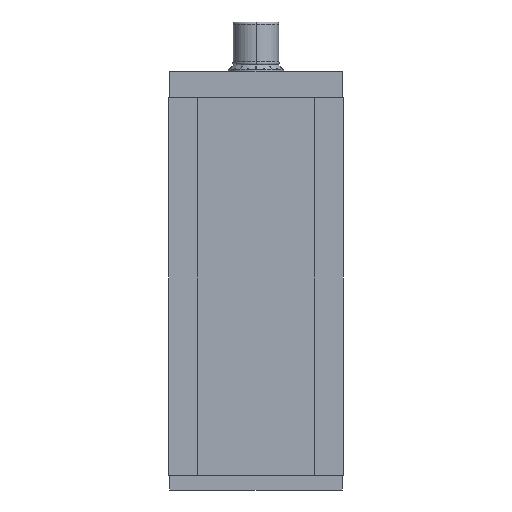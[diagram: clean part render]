
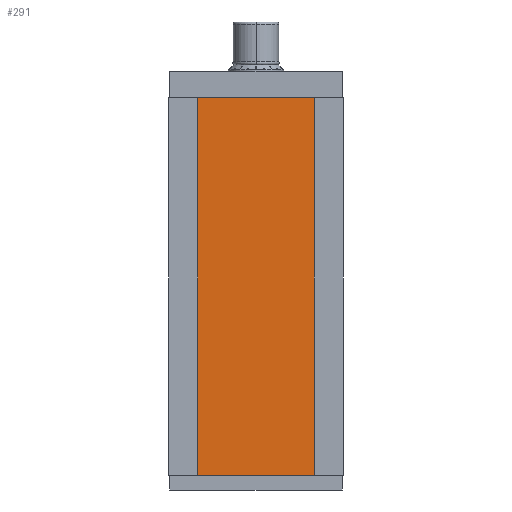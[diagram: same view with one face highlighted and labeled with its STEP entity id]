
A CAD part, front view. The second image highlights one B-rep face of the part: STEP entity #291.
In plain terms, the highlighted planar face has unit normal (0, -1, 0).
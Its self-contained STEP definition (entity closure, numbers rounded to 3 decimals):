
#91 = EDGE_CURVE ( 'NONE', #170, #110, #1534, .T. ) ;
#110 = VERTEX_POINT ( 'NONE', #1559 ) ;
#170 = VERTEX_POINT ( 'NONE', #1652 ) ;
#291 = ADVANCED_FACE ( 'Fl�che15', ( #1853 ), #1852, .F. ) ;
#292 = EDGE_LOOP ( 'NONE', ( #293, #295, #296, #298 ) ) ;
#293 = ORIENTED_EDGE ( 'NONE', *, *, #294, .T. ) ;
#294 = EDGE_CURVE ( 'NONE', #309, #110, #1847, .T. ) ;
#295 = ORIENTED_EDGE ( 'NONE', *, *, #91, .F. ) ;
#296 = ORIENTED_EDGE ( 'NONE', *, *, #297, .F. ) ;
#297 = EDGE_CURVE ( 'NONE', #312, #170, #1843, .T. ) ;
#298 = ORIENTED_EDGE ( 'NONE', *, *, #311, .T. ) ;
#309 = VERTEX_POINT ( 'NONE', #1885 ) ;
#311 = EDGE_CURVE ( 'NONE', #312, #309, #1884, .T. ) ;
#312 = VERTEX_POINT ( 'NONE', #1880 ) ;
#1531 = DIRECTION ( 'NONE',  ( 0., 0., -1. ) ) ;
#1532 = VECTOR ( 'NONE', #1531, 1000. ) ;
#1533 = CARTESIAN_POINT ( 'NONE',  ( 41.155, 0., 130. ) ) ;
#1534 = LINE ( 'NONE', #1533, #1532 ) ;
#1559 = CARTESIAN_POINT ( 'NONE',  ( 41.155, 0., -130. ) ) ;
#1652 = CARTESIAN_POINT ( 'NONE',  ( 41.155, 0., 130. ) ) ;
#1840 = DIRECTION ( 'NONE',  ( 1., 0., 0. ) ) ;
#1841 = VECTOR ( 'NONE', #1840, 1000. ) ;
#1842 = CARTESIAN_POINT ( 'NONE',  ( -41.155, 0., 130. ) ) ;
#1843 = LINE ( 'NONE', #1842, #1841 ) ;
#1844 = DIRECTION ( 'NONE',  ( 1., 0., 0. ) ) ;
#1845 = VECTOR ( 'NONE', #1844, 1000. ) ;
#1846 = CARTESIAN_POINT ( 'NONE',  ( -41.155, 0., -130. ) ) ;
#1847 = LINE ( 'NONE', #1846, #1845 ) ;
#1848 = DIRECTION ( 'NONE',  ( 0., 0., 1. ) ) ;
#1849 = DIRECTION ( 'NONE',  ( 0., 1., 0. ) ) ;
#1850 = CARTESIAN_POINT ( 'NONE',  ( -41.155, 0., 130. ) ) ;
#1851 = AXIS2_PLACEMENT_3D ( 'NONE', #1850, #1849, #1848 ) ;
#1852 = PLANE ( 'NONE',  #1851 ) ;
#1853 = FACE_OUTER_BOUND ( 'NONE', #292, .T. ) ;
#1880 = CARTESIAN_POINT ( 'NONE',  ( -41.155, 0., 130. ) ) ;
#1881 = DIRECTION ( 'NONE',  ( 0., 0., -1. ) ) ;
#1882 = VECTOR ( 'NONE', #1881, 1000. ) ;
#1883 = CARTESIAN_POINT ( 'NONE',  ( -41.155, 0., 130. ) ) ;
#1884 = LINE ( 'NONE', #1883, #1882 ) ;
#1885 = CARTESIAN_POINT ( 'NONE',  ( -41.155, 0., -130. ) ) ;
